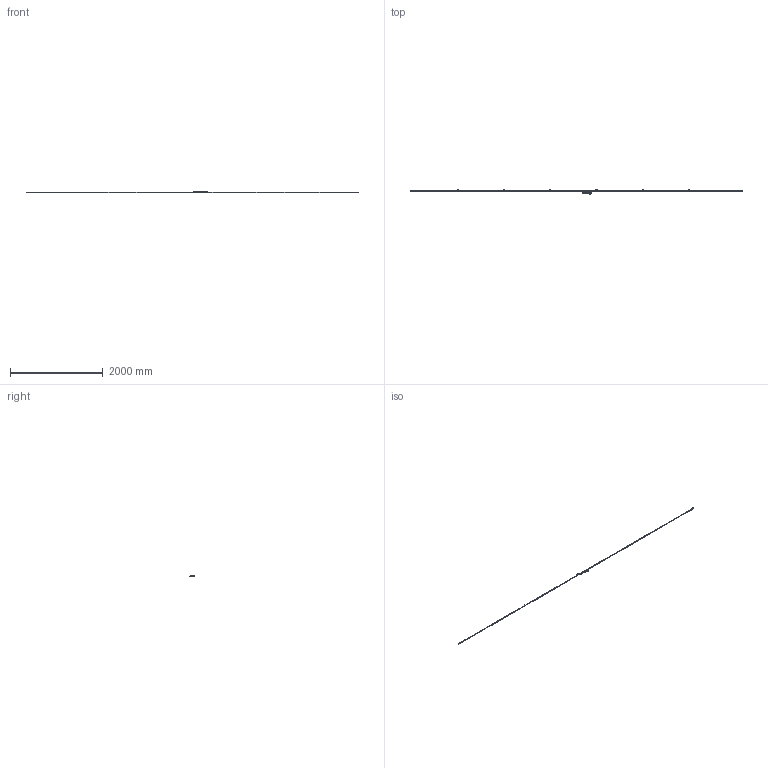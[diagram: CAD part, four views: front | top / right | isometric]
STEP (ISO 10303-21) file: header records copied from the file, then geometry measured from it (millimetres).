
FILE_DESCRIPTION(('Creo Elements/Direct Modeling STEP Export'),'2;1');
FILE_NAME('ST1300-7000D.stp','2018-03-01T15:24:35',(''),(''),'Creo Elements/Direct Modeling STEP processor for AP214 (Solid Model)','Creo Elements/Direct Modeling 18.1B 29-Sep-2012 (C) Parametric Technology GmbH','');
FILE_SCHEMA(('AUTOMOTIVE_DESIGN { 1 0 10303 214 1 1 1 1 }'));
Length unit declared in the file: millimetre
Products named in the file (4): Detector_Head; Scale_7000; Connector; ST1300-7000D
Assembly tree (3 placements, depth 2):
  ST1300-7000D
    Connector
    Scale_7000
    Detector_Head
Bounding box: 7173 x 88.3 x 30.1 mm (x, y, z)
Volume: 613558.1 mm3; surface area: 392289.4 mm2
Topology: 2 solids, 10 shells, 5434 faces, 14602 edges, 9417 vertices
Faces by surface type: plane 2446, cylinder 2040, extrusion 748, cone 123, torus 50, bspline 23, revolution 4
Entity records: 176959 total; most frequent: CARTESIAN_POINT 44029, ORIENTED_EDGE 29180, DIRECTION 24490, EDGE_CURVE 14586, VERTEX_POINT 9417, VECTOR 8792, LINE 8076, AXIS2_PLACEMENT_3D 7846
